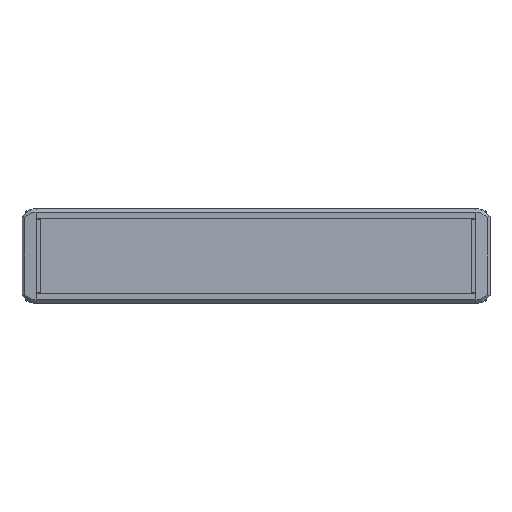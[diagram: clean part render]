
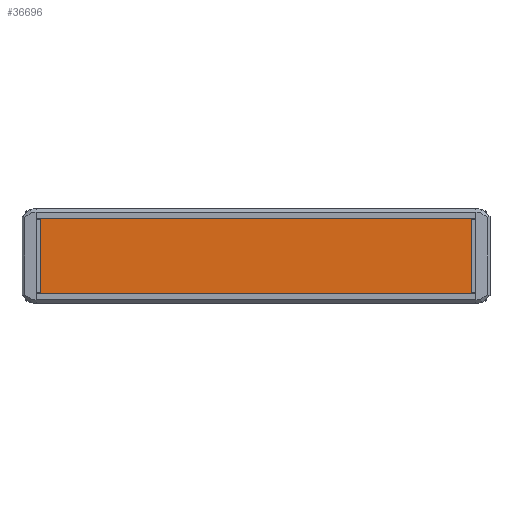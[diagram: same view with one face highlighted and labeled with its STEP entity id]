
A CAD part, front view. The second image highlights one B-rep face of the part: STEP entity #36696.
In plain terms, the highlighted planar face has unit normal (0, -1, 0) as drawn and (0, 1, 0) by its records, which use the part's own axes.
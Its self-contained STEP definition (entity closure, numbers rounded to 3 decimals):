
#36552=DIRECTION('',(-1.,0.,0.));
#36553=VECTOR('',#36552,34.6);
#36554=CARTESIAN_POINT('',(17.3,2.,-93.1));
#36555=LINE('',#36554,#36553);
#36573=DIRECTION('',(0.,0.,1.));
#36574=VECTOR('',#36573,186.2);
#36575=CARTESIAN_POINT('',(-17.3,2.,-93.1));
#36576=LINE('',#36575,#36574);
#36580=DIRECTION('',(0.,0.,1.));
#36581=VECTOR('',#36580,186.2);
#36582=CARTESIAN_POINT('',(17.3,2.,-93.1));
#36583=LINE('',#36582,#36581);
#36608=DIRECTION('',(-1.,0.,0.));
#36609=VECTOR('',#36608,34.6);
#36610=CARTESIAN_POINT('',(17.3,2.,93.1));
#36611=LINE('',#36610,#36609);
#36626=CARTESIAN_POINT('',(17.3,2.,-93.1));
#36627=VERTEX_POINT('',#36626);
#36628=CARTESIAN_POINT('',(-17.3,2.,-93.1));
#36629=VERTEX_POINT('',#36628);
#36634=CARTESIAN_POINT('',(17.3,2.,93.1));
#36635=VERTEX_POINT('',#36634);
#36636=CARTESIAN_POINT('',(-17.3,2.,93.1));
#36637=VERTEX_POINT('',#36636);
#36683=CARTESIAN_POINT('',(17.3,2.,-93.1));
#36684=DIRECTION('',(0.,1.,0.));
#36685=DIRECTION('',(-1.,0.,0.));
#36686=AXIS2_PLACEMENT_3D('',#36683,#36684,#36685);
#36687=PLANE('',#36686);
#36688=ORIENTED_EDGE('',*,*,#36647,.F.);
#36690=ORIENTED_EDGE('',*,*,#36689,.T.);
#36692=ORIENTED_EDGE('',*,*,#36691,.T.);
#36693=ORIENTED_EDGE('',*,*,#36675,.F.);
#36694=EDGE_LOOP('',(#36688,#36690,#36692,#36693));
#36695=FACE_OUTER_BOUND('',#36694,.F.);
#36647=EDGE_CURVE('',#36627,#36629,#36555,.T.);
#36675=EDGE_CURVE('',#36629,#36637,#36576,.T.);
#36689=EDGE_CURVE('',#36627,#36635,#36583,.T.);
#36691=EDGE_CURVE('',#36635,#36637,#36611,.T.);
#36696=ADVANCED_FACE('',(#36695),#36687,.T.);
